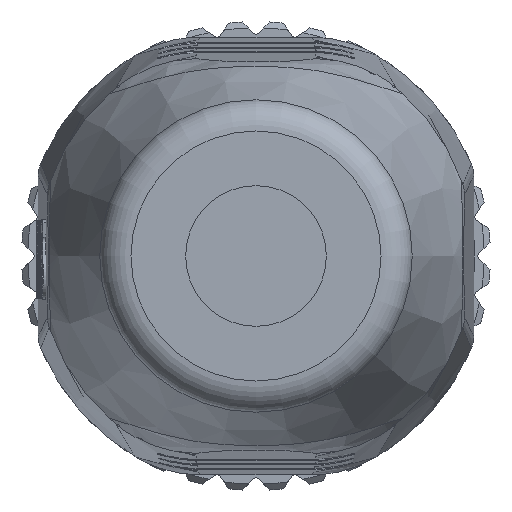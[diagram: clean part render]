
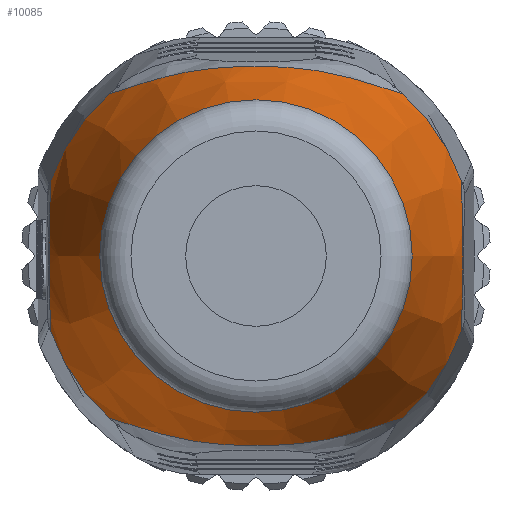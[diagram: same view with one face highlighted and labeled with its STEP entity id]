
A CAD part, front view. The second image highlights one B-rep face of the part: STEP entity #10085.
In plain terms, the highlighted conical face has half-angle 15.945 degrees and reference radius 5 mm.
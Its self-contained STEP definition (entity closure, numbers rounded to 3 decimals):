
#267=CONICAL_SURFACE('',#12361,5.,15.945);
#1122=B_SPLINE_CURVE_WITH_KNOTS('',3,(#20690,#20691,#20692,#20693,#20694,
#20695,#20696,#20697,#20698,#20699,#20700,#20701,#20702,#20703,#20704,#20705,
#20706,#20707,#20708,#20709,#20710,#20711),.UNSPECIFIED.,.F.,.F.,(4,2,2,
2,2,2,2,2,2,2,4),(0.,0.125,0.188,0.219,0.25,0.5,0.625,0.688,0.719,
0.75,1.),.UNSPECIFIED.);
#1162=B_SPLINE_CURVE_WITH_KNOTS('',3,(#21294,#21295,#21296,#21297),
 .UNSPECIFIED.,.F.,.F.,(4,4),(0.,1.),.UNSPECIFIED.);
#1183=B_SPLINE_CURVE_WITH_KNOTS('',3,(#21709,#21710,#21711,#21712,#21713,
#21714,#21715,#21716,#21717,#21718,#21719,#21720,#21721,#21722,#21723,#21724,
#21725,#21726,#21727,#21728,#21729,#21730),.UNSPECIFIED.,.F.,.F.,(4,2,2,
2,2,2,2,2,2,2,4),(0.,0.125,0.188,0.219,0.25,0.5,0.625,0.688,0.719,
0.75,1.),.UNSPECIFIED.);
#1188=B_SPLINE_CURVE_WITH_KNOTS('',3,(#21891,#21892,#21893,#21894),
 .UNSPECIFIED.,.F.,.F.,(4,4),(0.,1.),.UNSPECIFIED.);
#2196=EDGE_LOOP('',(#6341));
#2197=EDGE_LOOP('',(#6342,#6343,#6344,#6345,#6346,#6347,#6348,#6349));
#6341=ORIENTED_EDGE('',*,*,#8472,.F.);
#6342=ORIENTED_EDGE('',*,*,#8681,.T.);
#6343=ORIENTED_EDGE('',*,*,#8682,.T.);
#6344=ORIENTED_EDGE('',*,*,#8683,.T.);
#6345=ORIENTED_EDGE('',*,*,#8510,.T.);
#6346=ORIENTED_EDGE('',*,*,#8684,.T.);
#6347=ORIENTED_EDGE('',*,*,#8637,.T.);
#6348=ORIENTED_EDGE('',*,*,#8685,.T.);
#6349=ORIENTED_EDGE('',*,*,#8676,.T.);
#8472=EDGE_CURVE('',#11195,#11195,#9444,.T.);
#8510=EDGE_CURVE('',#11222,#11223,#1122,.T.);
#8637=EDGE_CURVE('',#11290,#11289,#1162,.T.);
#8676=EDGE_CURVE('',#11317,#11318,#1183,.T.);
#8681=EDGE_CURVE('',#11318,#11321,#9445,.T.);
#8682=EDGE_CURVE('',#11321,#11322,#1188,.T.);
#8683=EDGE_CURVE('',#11322,#11222,#9446,.T.);
#8684=EDGE_CURVE('',#11223,#11290,#9447,.T.);
#8685=EDGE_CURVE('',#11289,#11317,#9448,.T.);
#9444=CIRCLE('',#12271,5.);
#9445=CIRCLE('',#12357,7.);
#9446=CIRCLE('',#12358,7.);
#9447=CIRCLE('',#12359,7.);
#9448=CIRCLE('',#12360,7.);
#10085=ADVANCED_FACE('',(#10370,#10371),#267,.T.);
#10370=FACE_BOUND('',#2196,.T.);
#10371=FACE_BOUND('',#2197,.T.);
#11195=VERTEX_POINT('',#20302);
#11222=VERTEX_POINT('',#20712);
#11223=VERTEX_POINT('',#20713);
#11289=VERTEX_POINT('',#21293);
#11290=VERTEX_POINT('',#21298);
#11317=VERTEX_POINT('',#21731);
#11318=VERTEX_POINT('',#21732);
#11321=VERTEX_POINT('',#21890);
#11322=VERTEX_POINT('',#21895);
#12271=AXIS2_PLACEMENT_3D('',#20301,#14612,#14613);
#12357=AXIS2_PLACEMENT_3D('',#21889,#14925,#14926);
#12358=AXIS2_PLACEMENT_3D('',#21896,#14927,#14928);
#12359=AXIS2_PLACEMENT_3D('',#21897,#14929,#14930);
#12360=AXIS2_PLACEMENT_3D('',#21898,#14931,#14932);
#12361=AXIS2_PLACEMENT_3D('',#21899,#14933,#14934);
#14612=DIRECTION('',(0.,-1.,0.));
#14613=DIRECTION('',(1.,0.,0.));
#14925=DIRECTION('',(0.,-1.,0.));
#14926=DIRECTION('',(1.,0.,0.));
#14927=DIRECTION('',(0.,-1.,0.));
#14928=DIRECTION('',(1.,0.,0.));
#14929=DIRECTION('',(0.,-1.,0.));
#14930=DIRECTION('',(1.,0.,0.));
#14931=DIRECTION('',(0.,-1.,0.));
#14932=DIRECTION('',(1.,0.,0.));
#14933=DIRECTION('',(0.,1.,0.));
#14934=DIRECTION('',(1.,0.,0.));
#20301=CARTESIAN_POINT('',(0.,-18.1,0.));
#20302=CARTESIAN_POINT('',(5.,-18.1,0.));
#20690=CARTESIAN_POINT('',(4.699,-11.1,5.189));
#20691=CARTESIAN_POINT('',(4.429,-11.534,5.265));
#20692=CARTESIAN_POINT('',(4.129,-11.933,5.365));
#20693=CARTESIAN_POINT('',(3.626,-12.478,5.525));
#20694=CARTESIAN_POINT('',(3.449,-12.651,5.58));
#20695=CARTESIAN_POINT('',(3.169,-12.897,5.661));
#20696=CARTESIAN_POINT('',(3.073,-12.977,5.687));
#20697=CARTESIAN_POINT('',(2.877,-13.132,5.74));
#20698=CARTESIAN_POINT('',(2.802,-13.19,5.759));
#20699=CARTESIAN_POINT('',(1.642,-14.013,6.035));
#20700=CARTESIAN_POINT('',(0.759,-14.379,6.063));
#20701=CARTESIAN_POINT('',(-0.38,-14.379,6.063));
#20702=CARTESIAN_POINT('',(-0.788,-14.288,6.054));
#20703=CARTESIAN_POINT('',(-1.455,-14.013,5.998));
#20704=CARTESIAN_POINT('',(-1.686,-13.899,5.972));
#20705=CARTESIAN_POINT('',(-2.046,-13.693,5.917));
#20706=CARTESIAN_POINT('',(-2.168,-13.619,5.896));
#20707=CARTESIAN_POINT('',(-2.417,-13.458,5.848));
#20708=CARTESIAN_POINT('',(-2.57,-13.354,5.814));
#20709=CARTESIAN_POINT('',(-3.498,-12.695,5.593));
#20710=CARTESIAN_POINT('',(-4.16,-11.968,5.342));
#20711=CARTESIAN_POINT('',(-4.699,-11.1,5.189));
#20712=CARTESIAN_POINT('',(4.699,-11.1,5.189));
#20713=CARTESIAN_POINT('',(-4.699,-11.1,5.189));
#21293=CARTESIAN_POINT('',(-6.576,-11.1,-2.399));
#21294=CARTESIAN_POINT('',(-6.576,-11.1,2.399));
#21295=CARTESIAN_POINT('',(-6.62,-12.908,0.771));
#21296=CARTESIAN_POINT('',(-6.62,-12.908,-0.771));
#21297=CARTESIAN_POINT('',(-6.576,-11.1,-2.399));
#21298=CARTESIAN_POINT('',(-6.576,-11.1,2.399));
#21709=CARTESIAN_POINT('',(-4.699,-11.1,-5.189));
#21710=CARTESIAN_POINT('',(-4.429,-11.534,-5.265));
#21711=CARTESIAN_POINT('',(-4.129,-11.933,-5.365));
#21712=CARTESIAN_POINT('',(-3.626,-12.478,-5.525));
#21713=CARTESIAN_POINT('',(-3.449,-12.651,-5.58));
#21714=CARTESIAN_POINT('',(-3.169,-12.897,-5.661));
#21715=CARTESIAN_POINT('',(-3.073,-12.977,-5.687));
#21716=CARTESIAN_POINT('',(-2.877,-13.132,-5.74));
#21717=CARTESIAN_POINT('',(-2.802,-13.19,-5.759));
#21718=CARTESIAN_POINT('',(-1.642,-14.013,-6.035));
#21719=CARTESIAN_POINT('',(-0.759,-14.379,-6.063));
#21720=CARTESIAN_POINT('',(0.38,-14.379,-6.063));
#21721=CARTESIAN_POINT('',(0.788,-14.288,-6.054));
#21722=CARTESIAN_POINT('',(1.455,-14.013,-5.998));
#21723=CARTESIAN_POINT('',(1.686,-13.899,-5.972));
#21724=CARTESIAN_POINT('',(2.046,-13.693,-5.917));
#21725=CARTESIAN_POINT('',(2.168,-13.619,-5.896));
#21726=CARTESIAN_POINT('',(2.417,-13.458,-5.848));
#21727=CARTESIAN_POINT('',(2.57,-13.354,-5.814));
#21728=CARTESIAN_POINT('',(3.498,-12.695,-5.593));
#21729=CARTESIAN_POINT('',(4.16,-11.968,-5.342));
#21730=CARTESIAN_POINT('',(4.699,-11.1,-5.189));
#21731=CARTESIAN_POINT('',(-4.699,-11.1,-5.189));
#21732=CARTESIAN_POINT('',(4.699,-11.1,-5.189));
#21889=CARTESIAN_POINT('',(0.,-11.1,0.));
#21890=CARTESIAN_POINT('',(6.576,-11.1,-2.399));
#21891=CARTESIAN_POINT('',(6.576,-11.1,-2.399));
#21892=CARTESIAN_POINT('',(6.62,-12.908,-0.771));
#21893=CARTESIAN_POINT('',(6.62,-12.908,0.771));
#21894=CARTESIAN_POINT('',(6.576,-11.1,2.399));
#21895=CARTESIAN_POINT('',(6.576,-11.1,2.399));
#21896=CARTESIAN_POINT('',(0.,-11.1,0.));
#21897=CARTESIAN_POINT('',(0.,-11.1,0.));
#21898=CARTESIAN_POINT('',(0.,-11.1,0.));
#21899=CARTESIAN_POINT('',(0.,-18.1,0.));
